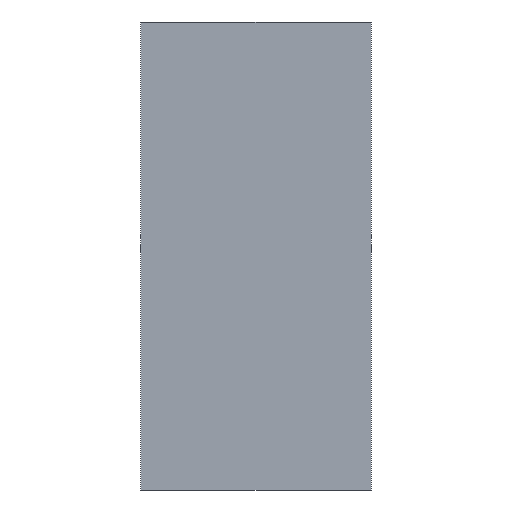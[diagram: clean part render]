
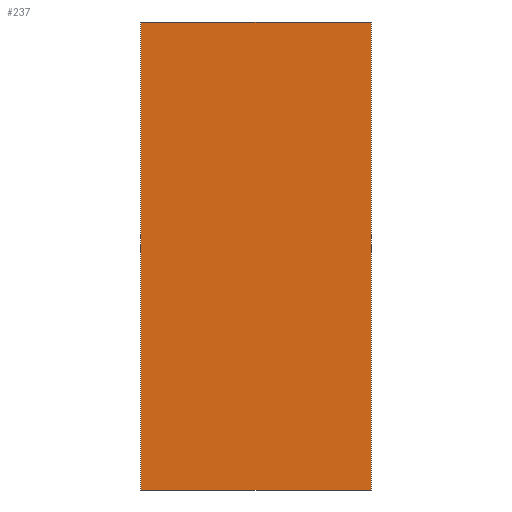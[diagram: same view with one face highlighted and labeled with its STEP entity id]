
A CAD part, front view. The second image highlights one B-rep face of the part: STEP entity #237.
In plain terms, the highlighted planar face has unit normal (0, -1, 0).
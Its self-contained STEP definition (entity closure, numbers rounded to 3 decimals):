
#21 = EDGE_CURVE('',#22,#24,#26,.T.);
#22 = VERTEX_POINT('',#23);
#23 = CARTESIAN_POINT('',(-11.1,-5.5,-29.6));
#24 = VERTEX_POINT('',#25);
#25 = CARTESIAN_POINT('',(-11.1,-5.5,29.6));
#26 = SURFACE_CURVE('',#27,(#31,#43),.PCURVE_S1.);
#27 = LINE('',#28,#29);
#28 = CARTESIAN_POINT('',(-11.1,-5.5,-29.6));
#29 = VECTOR('',#30,1.);
#30 = DIRECTION('',(0.,0.,1.));
#31 = PCURVE('',#32,#37);
#32 = PLANE('',#33);
#33 = AXIS2_PLACEMENT_3D('',#34,#35,#36);
#34 = CARTESIAN_POINT('',(-11.1,-5.5,-29.6));
#35 = DIRECTION('',(1.,0.,0.));
#36 = DIRECTION('',(0.,0.,1.));
#37 = DEFINITIONAL_REPRESENTATION('',(#38),#42);
#38 = LINE('',#39,#40);
#39 = CARTESIAN_POINT('',(0.,0.));
#40 = VECTOR('',#41,1.);
#41 = DIRECTION('',(1.,0.));
#42 = ( GEOMETRIC_REPRESENTATION_CONTEXT(2) 
PARAMETRIC_REPRESENTATION_CONTEXT() REPRESENTATION_CONTEXT('2D SPACE',''
  ) );
#43 = PCURVE('',#44,#49);
#44 = PLANE('',#45);
#45 = AXIS2_PLACEMENT_3D('',#46,#47,#48);
#46 = CARTESIAN_POINT('',(-11.1,-5.5,-29.6));
#47 = DIRECTION('',(0.,1.,0.));
#48 = DIRECTION('',(0.,0.,1.));
#49 = DEFINITIONAL_REPRESENTATION('',(#50),#54);
#50 = LINE('',#51,#52);
#51 = CARTESIAN_POINT('',(0.,0.));
#52 = VECTOR('',#53,1.);
#53 = DIRECTION('',(1.,0.));
#54 = ( GEOMETRIC_REPRESENTATION_CONTEXT(2) 
PARAMETRIC_REPRESENTATION_CONTEXT() REPRESENTATION_CONTEXT('2D SPACE',''
  ) );
#72 = PLANE('',#73);
#73 = AXIS2_PLACEMENT_3D('',#74,#75,#76);
#74 = CARTESIAN_POINT('',(-11.1,-5.5,-29.6));
#75 = DIRECTION('',(0.,0.,1.));
#76 = DIRECTION('',(1.,0.,0.));
#126 = PLANE('',#127);
#127 = AXIS2_PLACEMENT_3D('',#128,#129,#130);
#128 = CARTESIAN_POINT('',(-11.1,-5.5,29.6));
#129 = DIRECTION('',(0.,0.,1.));
#130 = DIRECTION('',(1.,0.,0.));
#141 = EDGE_CURVE('',#142,#144,#146,.T.);
#142 = VERTEX_POINT('',#143);
#143 = CARTESIAN_POINT('',(18.1,-5.5,-29.6));
#144 = VERTEX_POINT('',#145);
#145 = CARTESIAN_POINT('',(18.1,-5.5,29.6));
#146 = SURFACE_CURVE('',#147,(#151,#163),.PCURVE_S1.);
#147 = LINE('',#148,#149);
#148 = CARTESIAN_POINT('',(18.1,-5.5,-29.6));
#149 = VECTOR('',#150,1.);
#150 = DIRECTION('',(0.,0.,1.));
#151 = PCURVE('',#152,#157);
#152 = PLANE('',#153);
#153 = AXIS2_PLACEMENT_3D('',#154,#155,#156);
#154 = CARTESIAN_POINT('',(18.1,-5.5,-29.6));
#155 = DIRECTION('',(1.,0.,0.));
#156 = DIRECTION('',(0.,0.,1.));
#157 = DEFINITIONAL_REPRESENTATION('',(#158),#162);
#158 = LINE('',#159,#160);
#159 = CARTESIAN_POINT('',(0.,0.));
#160 = VECTOR('',#161,1.);
#161 = DIRECTION('',(1.,0.));
#162 = ( GEOMETRIC_REPRESENTATION_CONTEXT(2) 
PARAMETRIC_REPRESENTATION_CONTEXT() REPRESENTATION_CONTEXT('2D SPACE',''
  ) );
#163 = PCURVE('',#44,#164);
#164 = DEFINITIONAL_REPRESENTATION('',(#165),#169);
#165 = LINE('',#166,#167);
#166 = CARTESIAN_POINT('',(0.,29.2));
#167 = VECTOR('',#168,1.);
#168 = DIRECTION('',(1.,0.));
#169 = ( GEOMETRIC_REPRESENTATION_CONTEXT(2) 
PARAMETRIC_REPRESENTATION_CONTEXT() REPRESENTATION_CONTEXT('2D SPACE',''
  ) );
#237 = ADVANCED_FACE('',(#238),#44,.F.);
#238 = FACE_BOUND('',#239,.F.);
#239 = EDGE_LOOP('',(#240,#261,#262,#283));
#240 = ORIENTED_EDGE('',*,*,#241,.F.);
#241 = EDGE_CURVE('',#22,#142,#242,.T.);
#242 = SURFACE_CURVE('',#243,(#247,#254),.PCURVE_S1.);
#243 = LINE('',#244,#245);
#244 = CARTESIAN_POINT('',(-11.1,-5.5,-29.6));
#245 = VECTOR('',#246,1.);
#246 = DIRECTION('',(1.,0.,0.));
#247 = PCURVE('',#44,#248);
#248 = DEFINITIONAL_REPRESENTATION('',(#249),#253);
#249 = LINE('',#250,#251);
#250 = CARTESIAN_POINT('',(0.,0.));
#251 = VECTOR('',#252,1.);
#252 = DIRECTION('',(0.,1.));
#253 = ( GEOMETRIC_REPRESENTATION_CONTEXT(2) 
PARAMETRIC_REPRESENTATION_CONTEXT() REPRESENTATION_CONTEXT('2D SPACE',''
  ) );
#254 = PCURVE('',#72,#255);
#255 = DEFINITIONAL_REPRESENTATION('',(#256),#260);
#256 = LINE('',#257,#258);
#257 = CARTESIAN_POINT('',(0.,0.));
#258 = VECTOR('',#259,1.);
#259 = DIRECTION('',(1.,0.));
#260 = ( GEOMETRIC_REPRESENTATION_CONTEXT(2) 
PARAMETRIC_REPRESENTATION_CONTEXT() REPRESENTATION_CONTEXT('2D SPACE',''
  ) );
#261 = ORIENTED_EDGE('',*,*,#21,.T.);
#262 = ORIENTED_EDGE('',*,*,#263,.T.);
#263 = EDGE_CURVE('',#24,#144,#264,.T.);
#264 = SURFACE_CURVE('',#265,(#269,#276),.PCURVE_S1.);
#265 = LINE('',#266,#267);
#266 = CARTESIAN_POINT('',(-11.1,-5.5,29.6));
#267 = VECTOR('',#268,1.);
#268 = DIRECTION('',(1.,0.,0.));
#269 = PCURVE('',#44,#270);
#270 = DEFINITIONAL_REPRESENTATION('',(#271),#275);
#271 = LINE('',#272,#273);
#272 = CARTESIAN_POINT('',(59.2,0.));
#273 = VECTOR('',#274,1.);
#274 = DIRECTION('',(0.,1.));
#275 = ( GEOMETRIC_REPRESENTATION_CONTEXT(2) 
PARAMETRIC_REPRESENTATION_CONTEXT() REPRESENTATION_CONTEXT('2D SPACE',''
  ) );
#276 = PCURVE('',#126,#277);
#277 = DEFINITIONAL_REPRESENTATION('',(#278),#282);
#278 = LINE('',#279,#280);
#279 = CARTESIAN_POINT('',(0.,0.));
#280 = VECTOR('',#281,1.);
#281 = DIRECTION('',(1.,0.));
#282 = ( GEOMETRIC_REPRESENTATION_CONTEXT(2) 
PARAMETRIC_REPRESENTATION_CONTEXT() REPRESENTATION_CONTEXT('2D SPACE',''
  ) );
#283 = ORIENTED_EDGE('',*,*,#141,.F.);
